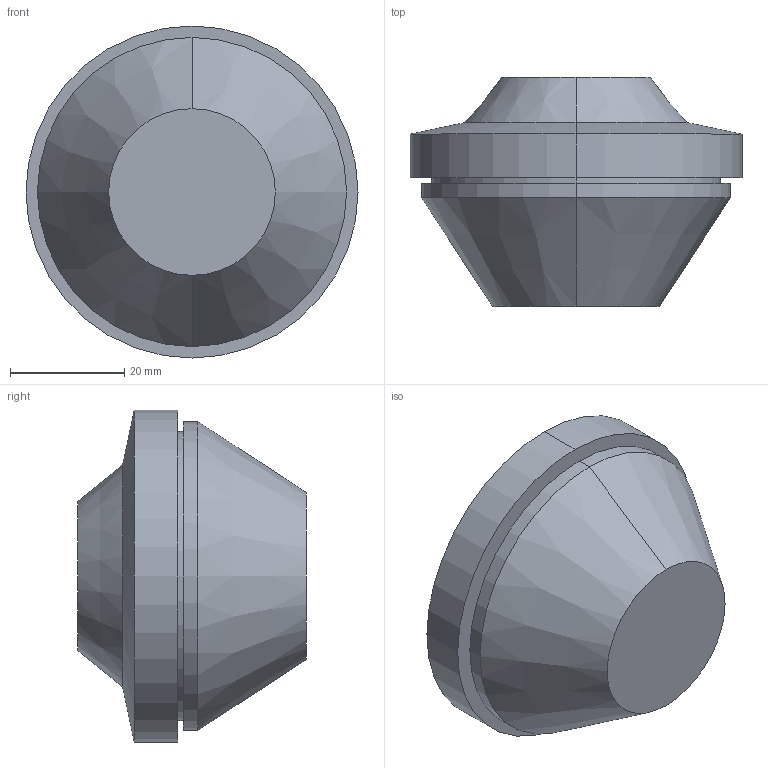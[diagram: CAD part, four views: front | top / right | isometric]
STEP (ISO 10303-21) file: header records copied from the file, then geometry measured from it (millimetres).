
FILE_DESCRIPTION (( 'STEP AP203' ), '1' );
FILE_NAME ('100739.STEP', '2012-10-29T10:28:42', ( 'Joni' ), ( 'Hewlett-Packard Company' ), 'SwSTEP 2.0', 'SolidWorks 2012', '' );
FILE_SCHEMA (( 'CONFIG_CONTROL_DESIGN' ));
Length unit declared in the file: millimetre
Products named in the file (1): 100739
Bounding box: 58 x 40 x 58 mm (x, y, z)
Volume: 64692.8 mm3; surface area: 9581 mm2
Topology: 1 solids, 1 shells, 16 faces, 30 edges, 18 vertices
Faces by surface type: cone 6, cylinder 6, plane 4
Entity records: 481 total; most frequent: DIRECTION 82, CARTESIAN_POINT 65, ORIENTED_EDGE 60, AXIS2_PLACEMENT_3D 35, EDGE_CURVE 30, CIRCLE 18, VERTEX_POINT 18, EDGE_LOOP 18
